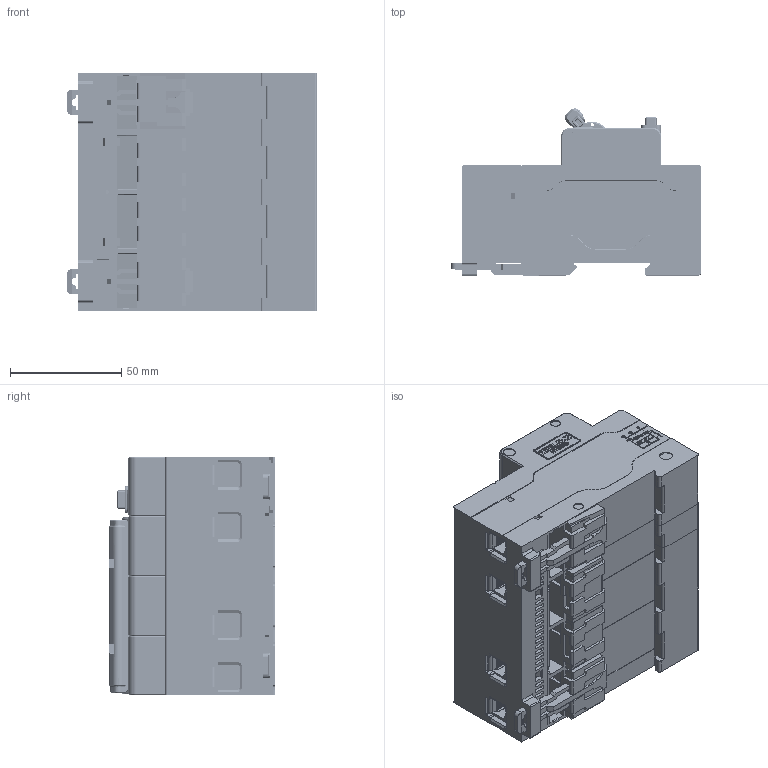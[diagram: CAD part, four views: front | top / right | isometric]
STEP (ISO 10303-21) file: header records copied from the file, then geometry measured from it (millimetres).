
FILE_DESCRIPTION((''),'2;1');
FILE_NAME('2256022100_ASM_SW0002','2019-07-26T',('xiao.wang'),(''),'PRO/ENGINEER BY PARAMETRIC TECHNOLOGY CORPORATION, 2015440','PRO/ENGINEER BY PARAMETRIC TECHNOLOGY CORPORATION, 2015440','');
FILE_SCHEMA(('CONFIG_CONTROL_DESIGN'));
Products named in the file (1): 2256022100_ASM_SW0002
Bounding box: 112.1 x 74.91 x 107.2 mm (x, y, z)
Volume: 453924 mm3; surface area: 196229.9 mm2
Topology: 1 solids, 11 shells, 8468 faces, 24265 edges, 15796 vertices
Faces by surface type: plane 6074, cylinder 1499, extrusion 543, cone 156, torus 118, bspline 47, sphere 31
Entity records: 280016 total; most frequent: CARTESIAN_POINT 58102, ORIENTED_EDGE 48468, DIRECTION 42762, EDGE_CURVE 24234, VECTOR 19486, LINE 18943, VERTEX_POINT 15796, AXIS2_PLACEMENT_3D 11638
